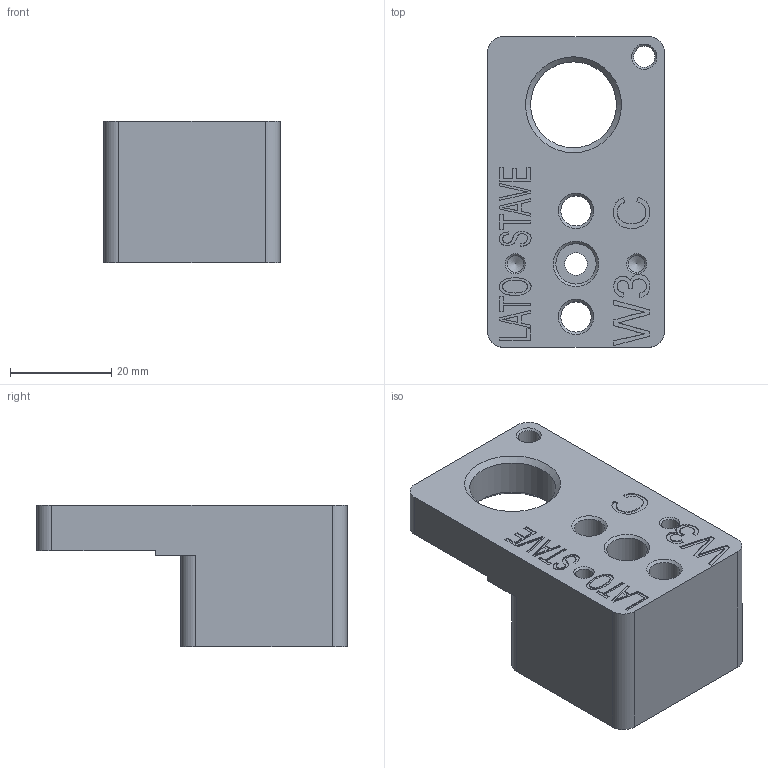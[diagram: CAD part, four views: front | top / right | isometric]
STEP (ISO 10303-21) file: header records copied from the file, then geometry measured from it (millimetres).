
FILE_DESCRIPTION(/* description */ (''),/* implementation_level */ '2;1');
FILE_NAME(/* name */ 'WHEELS-INSERT.20.stp',/* time_stamp */ '2018-10-12T17:26:37+02:00',/* author */ (''),/* organization */ (''),/* preprocessor_version */ 'ST-DEVELOPER v16.7',/* originating_system */ 'SIEMENS PLM Software NX 12.0',/* authorisation */ '');
FILE_SCHEMA (('AP203_CONFIGURATION_CONTROLLED_3D_DESIGN_OF_MECHANICAL_PARTS_AND_ASSEMBLIES_MIM_LF { 1 0 10303 403 2 1 2}'));
Length unit declared in the file: millimetre
Products named in the file (1): turc1934B35Eh6cc
Bounding box: 35 x 61.5 x 28 mm (x, y, z)
Volume: 36145.8 mm3; surface area: 10591.1 mm2
Topology: 1 solids, 1 shells, 157 faces, 416 edges, 277 vertices
Faces by surface type: plane 97, extrusion 26, cone 18, cylinder 16
Full cylindrical faces by diameter (mm): 3.3 x2, 4.2 x3, 4.5 x1, 6 x2, 8 x1, 17 x1
Entity records: 5571 total; most frequent: CARTESIAN_POINT 2043, ORIENTED_EDGE 734, DIRECTION 529, EDGE_CURVE 367, VERTEX_POINT 260, B_SPLINE_CURVE_WITH_KNOTS 220, EDGE_LOOP 211, AXIS2_PLACEMENT_3D 188
